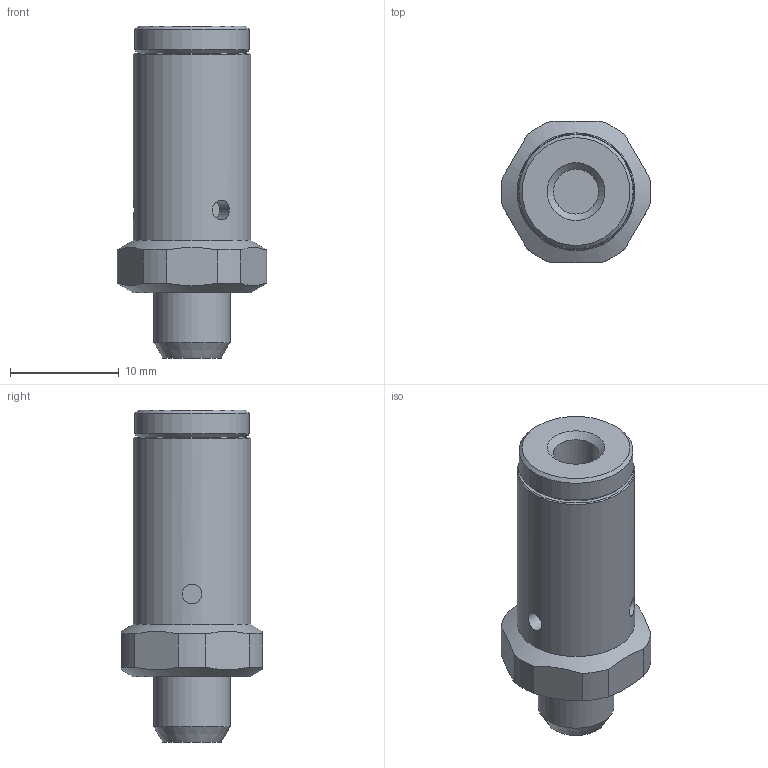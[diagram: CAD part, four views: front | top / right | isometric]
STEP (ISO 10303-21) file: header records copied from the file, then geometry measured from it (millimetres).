
FILE_DESCRIPTION(/* description */ ('VALVOLA S.RAPIDO IN M5 OUT M7'),/* implementation_level */ '2;1');
FILE_NAME(/* name */ 'I:\Area Tecnica\Disegni\VARIE-3D\Componenti\600\6_02_##_##_L\6_02_M5_M7_L.stp',/* time_stamp */ '2017-01-20T13:58:26+01:00',/* author */ ('maniean1'),/* organization */ ('Pneumax S.p.A.'),/* preprocessor_version */ 'ST-DEVELOPER v15.2',/* originating_system */ 'Autodesk Inventor 2014',/* authorisation */ '');
FILE_SCHEMA (('AUTOMOTIVE_DESIGN { 1 0 10303 214 3 1 1 }'));
Length unit declared in the file: millimetre
Products named in the file (1): 6_02_M5_M7_L
Bounding box: 13.77 x 13 x 30.5 mm (x, y, z)
Volume: 2552.7 mm3; surface area: 1333.5 mm2
Topology: 1 solids, 1 shells, 34 faces, 72 edges, 46 vertices
Faces by surface type: plane 14, cylinder 13, cone 7
Full cylindrical faces by diameter (mm): 1.8 x3, 4.134 x1, 7 x1, 10.5 x1, 10.8 x1
Entity records: 934 total; most frequent: CARTESIAN_POINT 258, DIRECTION 140, ORIENTED_EDGE 112, AXIS2_PLACEMENT_3D 64, EDGE_CURVE 56, EDGE_LOOP 54, VERTEX_POINT 44, ADVANCED_FACE 34
